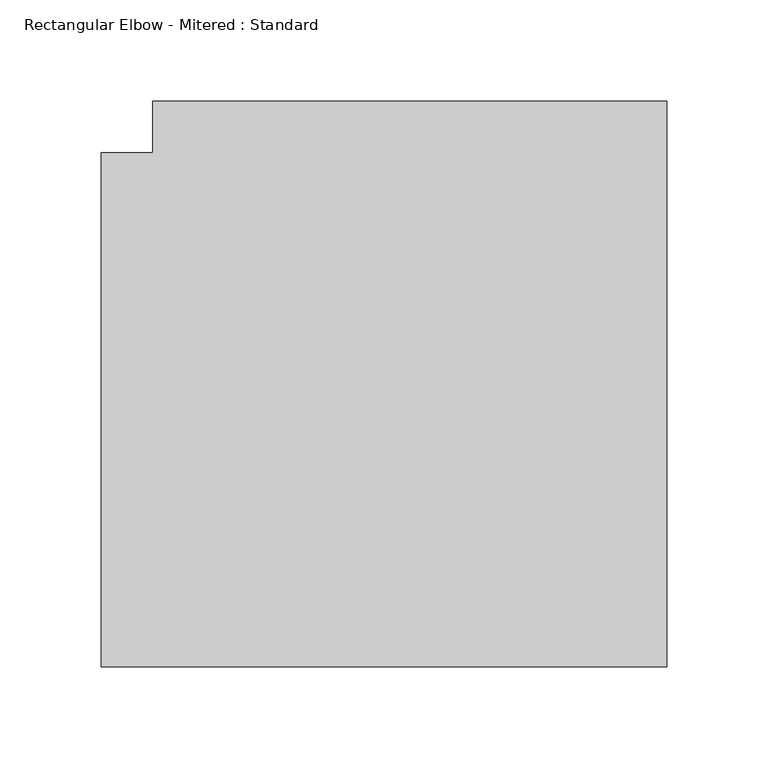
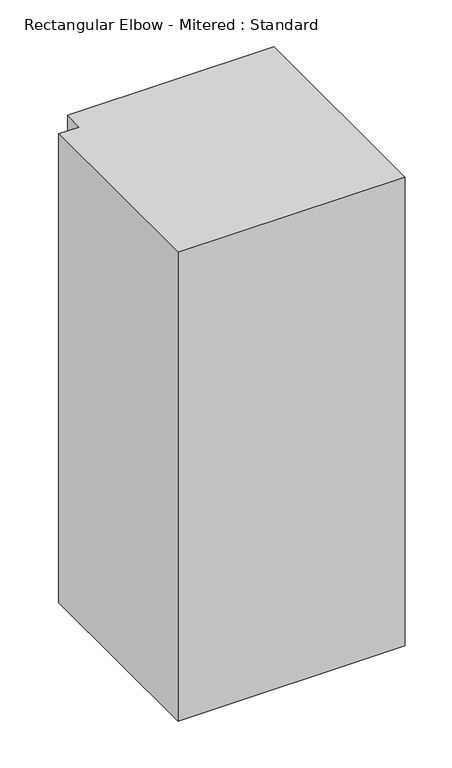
"""IFC4 building model written with IfcOpenShell, lengths in millimetres: duct fitting geometry, Rectangular Elbow - Mitered : Standard."""

from ifc_helpers import new_model, si_unit, frame, origin, place, context, project, spatial, polyline, outline, extrude, source, transform, mapped, element, save


def rectangular_elbow_mitered_standard_939e93b7(model_context):
    return source(origin(), model_context, "Body", "SweptSolid", [
        extrude(outline(polyline([(-152.4, -127.0), (-152.4, 127.0), (-127.0, 127.0), (-127.0, 152.4), (127.0, 152.4), (127.0, -127.0), (-152.4, -127.0)])), frame((0.0, 0.0, -304.8), z_axis=(0.0, 0.0, 1.0), x_axis=(1.0, 0.0, 0.0)), (0.0, 0.0, 1.0), 609.6),
    ])


if __name__ == "__main__":
    model = new_model("IFC4")
    model_context = context("Model", 3, world=origin())
    ifc_project = project(units=[si_unit("LENGTHUNIT", "METRE", prefix="MILLI")], contexts=[model_context])
    site = spatial("IfcSite", under=ifc_project)
    building = spatial("IfcBuilding", under=site)
    placement = place(None, origin())
    rectangular_elbow_mitered_standard_shape = rectangular_elbow_mitered_standard_939e93b7(model_context)
    element("IfcDuctFitting", 1, ObjectType="Rectangular Elbow - Mitered : Standard", at=placement, inside=building, context=model_context, shape_type="MappedRepresentation", body=[
        mapped(rectangular_elbow_mitered_standard_shape, transform((0.0, 0.0, 0.0), x_axis=(1.0, 0.0, 0.0), y_axis=(0.0, 1.0, 0.0), z_axis=(0.0, 0.0, 1.0))),
    ])
    save(model, "model.ifc")
